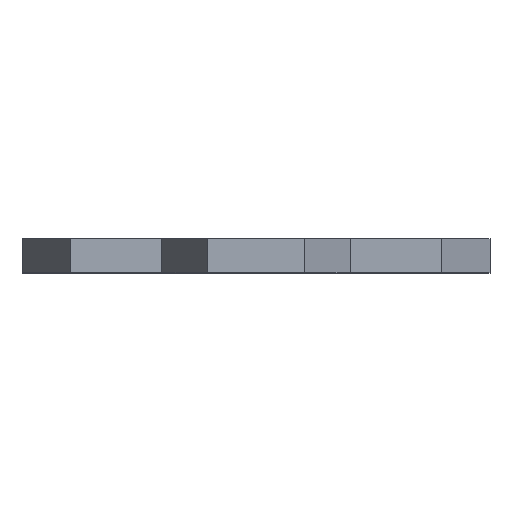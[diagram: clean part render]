
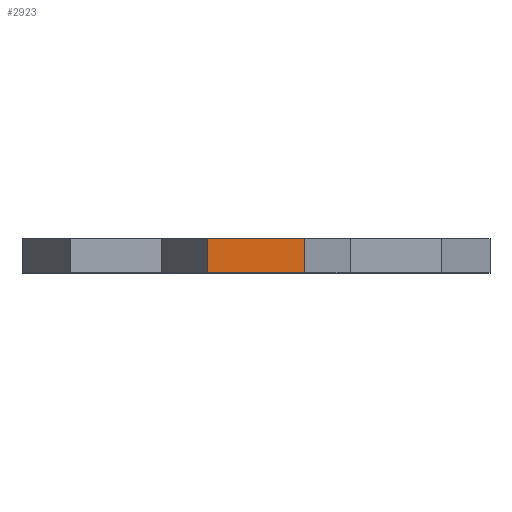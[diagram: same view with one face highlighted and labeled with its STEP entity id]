
A CAD part, top view. The second image highlights one B-rep face of the part: STEP entity #2923.
In plain terms, the highlighted planar face has unit normal (0, 0, 1).
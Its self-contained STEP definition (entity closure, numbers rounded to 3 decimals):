
#625=DIRECTION('',(-1.,0.,0.));
#626=VECTOR('',#625,28.463);
#627=CARTESIAN_POINT('',(54.328,-3.,140.4));
#628=LINE('',#627,#626);
#865=DIRECTION('',(0.,-1.,0.));
#866=VECTOR('',#865,10.);
#867=CARTESIAN_POINT('',(25.865,7.,140.4));
#868=LINE('',#867,#866);
#873=DIRECTION('',(0.,-1.,0.));
#874=VECTOR('',#873,10.);
#875=CARTESIAN_POINT('',(54.328,7.,140.4));
#876=LINE('',#875,#874);
#877=DIRECTION('',(1.,0.,0.));
#878=VECTOR('',#877,28.463);
#879=CARTESIAN_POINT('',(25.865,7.,140.4));
#880=LINE('',#879,#878);
#1337=CARTESIAN_POINT('',(54.328,7.,140.4));
#1338=VERTEX_POINT('',#1337);
#1339=CARTESIAN_POINT('',(25.865,7.,140.4));
#1340=VERTEX_POINT('',#1339);
#1519=CARTESIAN_POINT('',(54.328,-3.,140.4));
#1520=VERTEX_POINT('',#1519);
#1521=CARTESIAN_POINT('',(25.865,-3.,140.4));
#1522=VERTEX_POINT('',#1521);
#2911=CARTESIAN_POINT('',(25.865,0.,140.4));
#2912=DIRECTION('',(0.,0.,1.));
#2913=DIRECTION('',(1.,0.,0.));
#2914=AXIS2_PLACEMENT_3D('',#2911,#2912,#2913);
#2915=PLANE('',#2914);
#2917=ORIENTED_EDGE('',*,*,#2916,.T.);
#2918=ORIENTED_EDGE('',*,*,#2146,.T.);
#2919=ORIENTED_EDGE('',*,*,#2903,.F.);
#2920=ORIENTED_EDGE('',*,*,#1644,.T.);
#2921=EDGE_LOOP('',(#2917,#2918,#2919,#2920));
#2922=FACE_OUTER_BOUND('',#2921,.F.);
#2923=ADVANCED_FACE('',(#2922),#2915,.T.);
#1644=EDGE_CURVE('',#1340,#1338,#880,.T.);
#2146=EDGE_CURVE('',#1520,#1522,#628,.T.);
#2903=EDGE_CURVE('',#1340,#1522,#868,.T.);
#2916=EDGE_CURVE('',#1338,#1520,#876,.T.);
